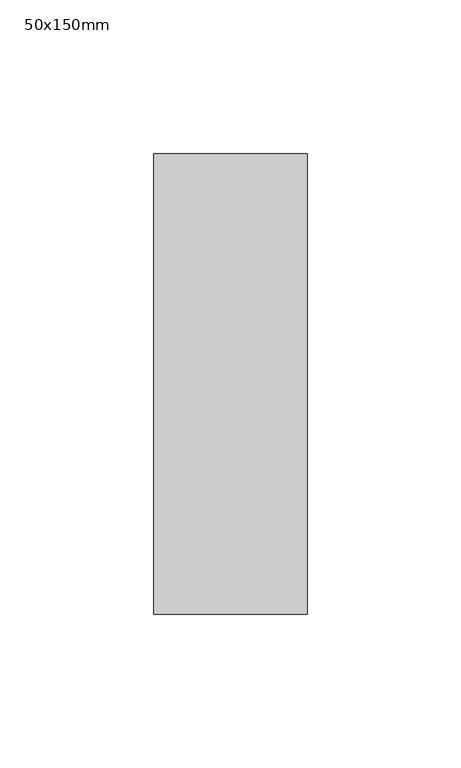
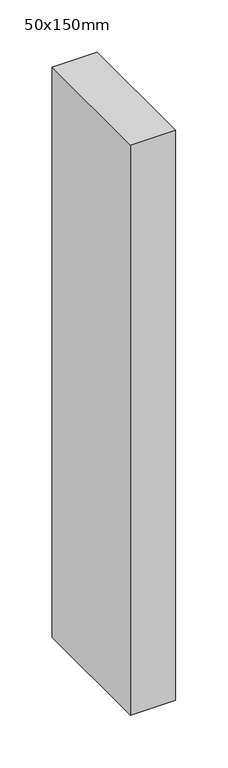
"""IFC4 building model written with IfcOpenShell, lengths in millimetres: member geometry, 長方形マリオン : 50x150mm."""

from ifc_helpers import new_model, si_unit, frame, origin, place, context, project, spatial, polyline, outline, extrude, source, transform, mapped, element, save


def member_50x150mm_86d21357(model_context):
    return source(origin(), model_context, "Body", "SweptSolid", [
        extrude(outline(polyline([(0.0, 75.0), (0.0, -75.0), (-50.0, -75.0), (-50.0, 75.0), (0.0, 75.0)])), frame((0.0, 0.0, -666.6666667), z_axis=(0.0, 0.0, 1.0), x_axis=(1.0, 0.0, 0.0)), (0.0, 0.0, 1.0), 666.6666667),
    ])


if __name__ == "__main__":
    model = new_model("IFC4")
    model_context = context("Model", 3, world=origin())
    ifc_project = project(units=[si_unit("LENGTHUNIT", "METRE", prefix="MILLI")], contexts=[model_context])
    site = spatial("IfcSite", under=ifc_project)
    building = spatial("IfcBuilding", under=site)
    placement = place(None, origin())
    member_50x150mm_shape = member_50x150mm_86d21357(model_context)
    element("IfcMember", 1, ObjectType="長方形マリオン : 50x150mm", at=placement, inside=building, context=model_context, shape_type="MappedRepresentation", body=[
        mapped(member_50x150mm_shape, transform((0.0, 0.0, 0.0), x_axis=(1.0, 0.0, 0.0), y_axis=(0.0, 1.0, 0.0), z_axis=(0.0, 0.0, 1.0))),
    ])
    save(model, "model.ifc")
